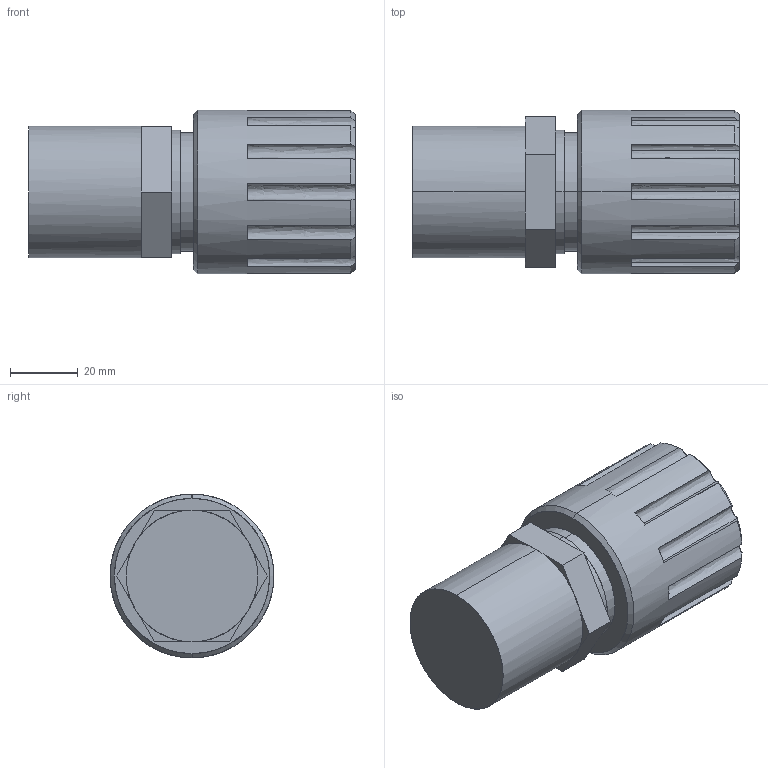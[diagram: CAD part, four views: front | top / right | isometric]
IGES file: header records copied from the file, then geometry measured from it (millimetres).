
Start section: SolidWorks IGES file using analytic representation for surfaces
Global section: file name: S:\Product Visuals\Pumps to be Defeatured\140 fittings\FITTING ASSEMBLIES\DEFEATURED\16 FLARETEC FITTING.IGS; native system: SolidWorks 2012; preprocessor: SolidWorks 2012; author: karen.bodily; date: 121130.130912; units: inch
Bounding box: 96.11 x 48.26 x 48.26 mm (x, y, z)
Surface area: 19529.3 mm2 (no closed solid volume)
Topology: 0 solids, 0 shells, 77 faces, 1250 edges, 1250 vertices
Faces by surface type: revolution 41, bspline 36
